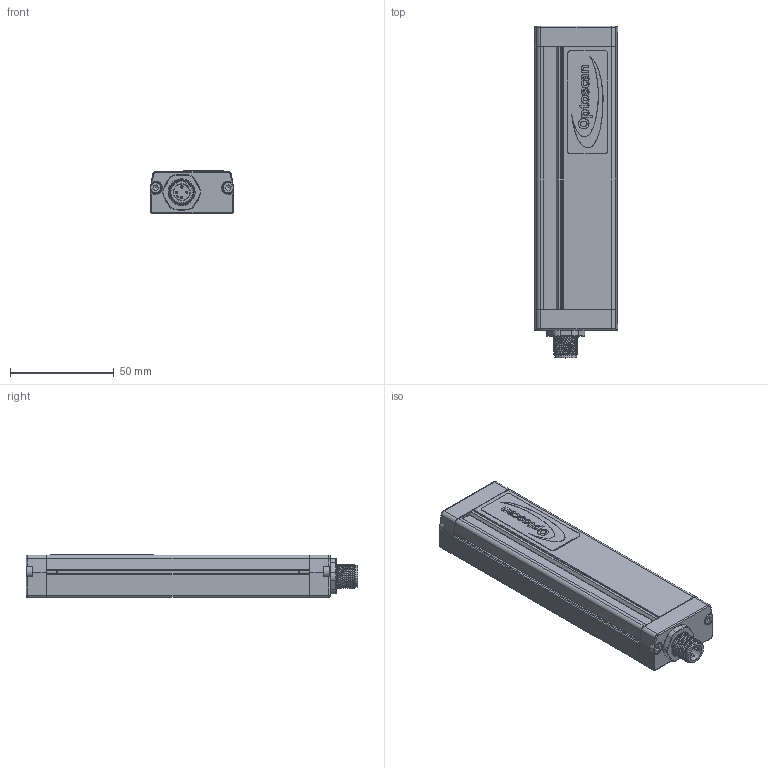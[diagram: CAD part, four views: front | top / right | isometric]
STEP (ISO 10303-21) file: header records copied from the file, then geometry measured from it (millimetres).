
FILE_DESCRIPTION(/* description */ (''),/* implementation_level */ '2;1');
FILE_NAME(/* name */ 'C:\Users\andre\SynologyDrive\Optoscan\Libreria Componenti\00 - Barriere\Polaris (PL_PLi)\Polaris_80_TX.stp',/* time_stamp */ '2021-05-03T14:59:54+02:00',/* author */ ('andre'),/* organization */ (''),/* preprocessor_version */ 'ST-DEVELOPER v18',/* originating_system */ 'Autodesk Inventor 2020',/* authorisation */ '');
FILE_SCHEMA (('AUTOMOTIVE_DESIGN { 1 0 10303 214 3 1 1 }'));
Length unit declared in the file: millimetre
Products named in the file (1): Polaris_80_TX
Bounding box: 40.5 x 160.3 x 20.75 mm (x, y, z)
Volume: 36253 mm3; surface area: 41978.1 mm2
Topology: 1 solids, 1 shells, 696 faces, 1911 edges, 1225 vertices
Faces by surface type: plane 321, cylinder 195, bspline 94, torus 72, cone 8, sphere 6
Full cylindrical faces by diameter (mm): 1 x4, 2.459 x4, 2.5 x4, 3 x4, 3.5 x4, 5.5 x4, 8 x1, 10.5 x2, 11.75 x9, 15.7 x1, 17.5 x1
Entity records: 30761 total; most frequent: CARTESIAN_POINT 12670, ORIENTED_EDGE 3806, DIRECTION 3415, EDGE_CURVE 1903, VERTEX_POINT 1225, AXIS2_PLACEMENT_3D 1193, LINE 1029, VECTOR 1029
